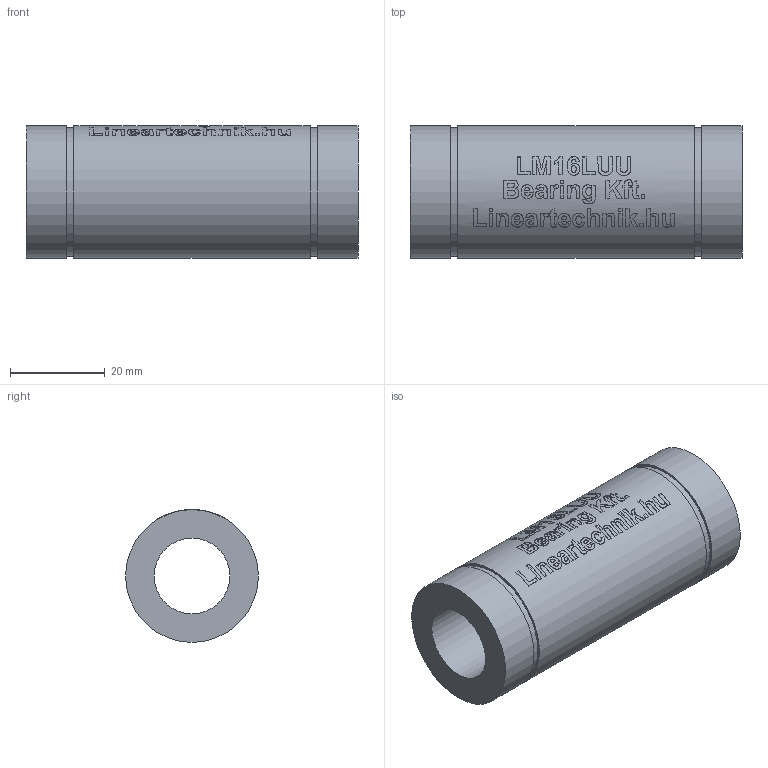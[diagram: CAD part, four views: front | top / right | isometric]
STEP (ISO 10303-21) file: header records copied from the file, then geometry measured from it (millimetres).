
FILE_DESCRIPTION(/* description */ (''),/* implementation_level */ '2;1');
FILE_NAME(/* name */ 'LM16LUU',/* time_stamp */ '2019-05-16T09:38:23+02:00',/* author */ ('VĂ©gh MĂˇtĂ©'),/* organization */ ('Bearing Kft'),/* preprocessor_version */ 'ST-DEVELOPER v16.7',/* originating_system */ 'DEX',/* authorisation */ $);
FILE_SCHEMA (('AUTOMOTIVE_DESIGN {1 0 10303 214 3 1 1}'));
Length unit declared in the file: millimetre
Products named in the file (1): LM16LUU
Bounding box: 70 x 28 x 28 mm (x, y, z)
Volume: 28822 mm3; surface area: 10726.8 mm2
Topology: 1 solids, 1 shells, 308 faces, 771 edges, 515 vertices
Faces by surface type: plane 162, bspline 94, cylinder 52
Full cylindrical faces by diameter (mm): 16 x1, 27 x2, 28 x3
Entity records: 19090 total; most frequent: CARTESIAN_POINT 12215, ORIENTED_EDGE 1522, DIRECTION 1148, EDGE_CURVE 761, VERTEX_POINT 513, LINE 420, VECTOR 420, EDGE_LOOP 368
